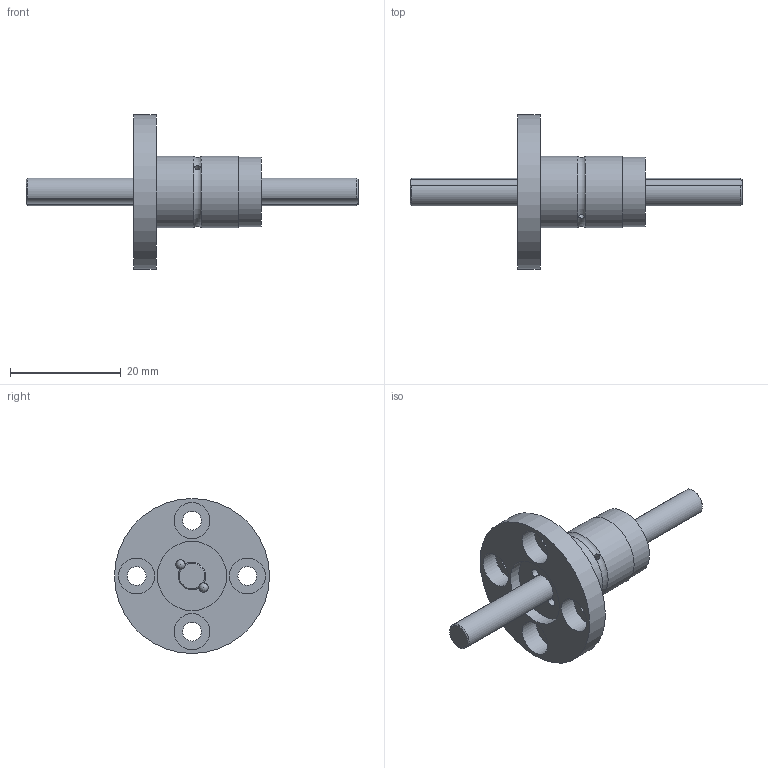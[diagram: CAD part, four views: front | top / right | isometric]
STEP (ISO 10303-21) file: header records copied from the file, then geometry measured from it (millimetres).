
FILE_DESCRIPTION(/* description */ ('Unknown'),/* implementation_level */ '2;1');
FILE_NAME(/* name */ 'TLF005-D-60',/* time_stamp */ '2024-12-16T13:37:35+08:00',/* author */ ('Unknown'),/* organization */ ('Unknown'),/* preprocessor_version */ 'ST-DEVELOPER v18.102',/* originating_system */ 'Solid Edge',/* authorisation */ 'Unknown');
FILE_SCHEMA (('AUTOMOTIVE_DESIGN {1 0 10303 214 3 1 1}'));
Length unit declared in the file: millimetre
Products named in the file (3): TLF005-D-60; TLF005; TLF005-D-xxxxx
Assembly tree (2 placements, depth 2):
  TLF005-D-60
    TLF005
    TLF005-D-xxxxx
Bounding box: 60 x 28 x 28 mm (x, y, z)
Volume: 4871.8 mm3; surface area: 4146.4 mm2
Topology: 2 solids, 2 shells, 49 faces, 151 edges, 104 vertices
Faces by surface type: cylinder 23, plane 11, sphere 10, cone 4, torus 1
Full cylindrical faces by diameter (mm): 1 x2, 3.4 x4, 6.5 x4, 12.5 x1, 12.6 x1, 13 x2, 28 x1
Entity records: 1761 total; most frequent: CARTESIAN_POINT 622, DIRECTION 220, ORIENTED_EDGE 168, EDGE_LOOP 112, FACE_BOUND 112, AXIS2_PLACEMENT_3D 106, EDGE_CURVE 84, VERTEX_POINT 72
